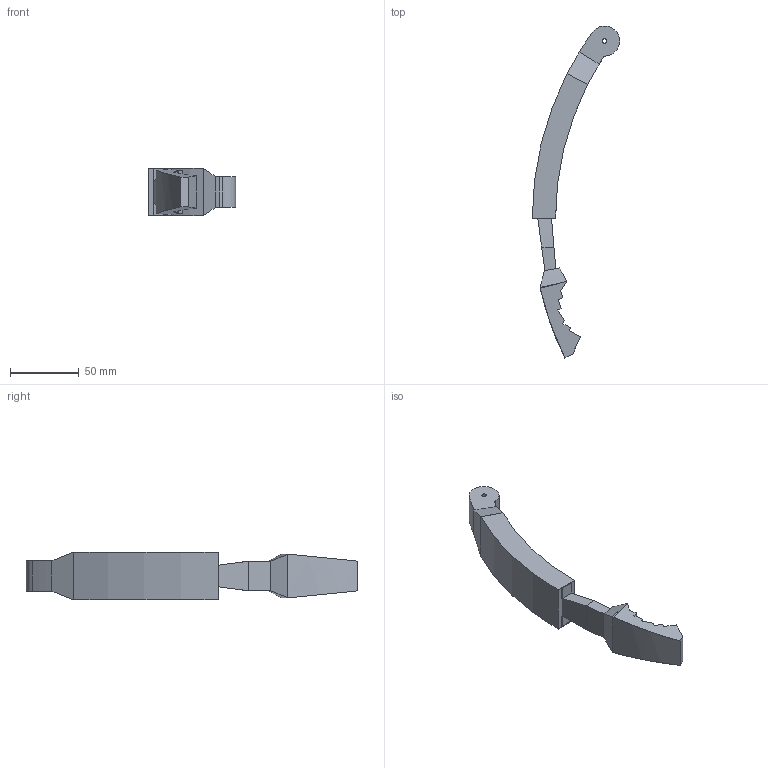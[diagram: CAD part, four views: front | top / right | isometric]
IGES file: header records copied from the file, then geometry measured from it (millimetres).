
Start section: 3D InterOp IGES (Version 19 0 3), Spatial Corp. Copyright (c) 1999-2007.
Global section: file name: export0.igs; native system: Spatial Corp.; preprocessor: 3D InterOp ACIS/IGES; author: Noname; organization: Noname; date: 20111011.212831; units: centimetre
Bounding box: 63.57 x 241.54 x 34.92 mm (x, y, z)
Surface area: 23745.8 mm2 (no closed solid volume)
Topology: 0 solids, 0 shells, 64 faces, 324 edges, 324 vertices
Faces by surface type: extrusion 36, bspline 16, revolution 12
